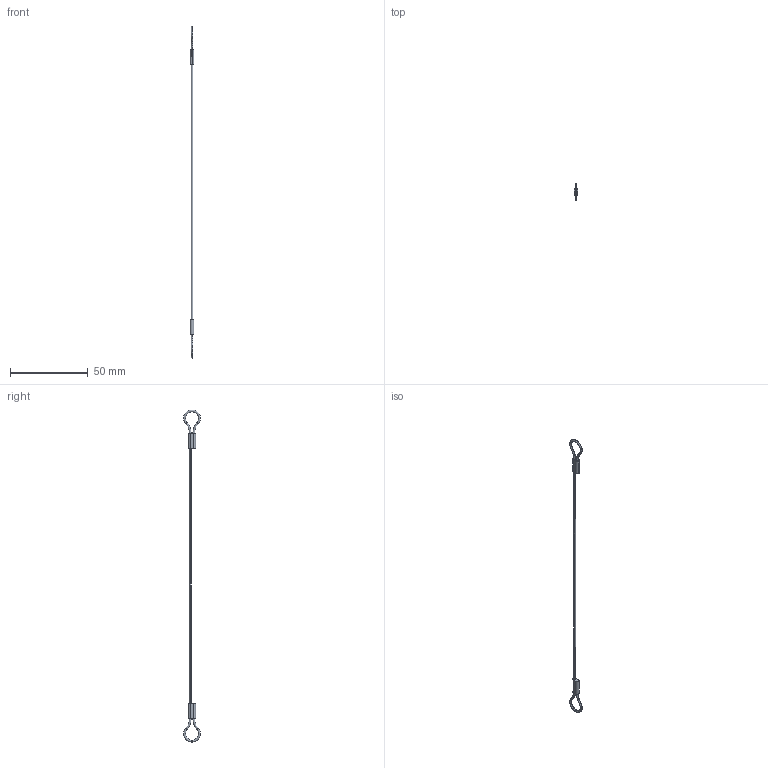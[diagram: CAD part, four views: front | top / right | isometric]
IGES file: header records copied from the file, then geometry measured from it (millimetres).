
Start section: SolidWorks IGES file using analytic representation for surfaces
Global section: file name: C:\Users\ianosborn\Desktop\LA1065_v2\LA1065_v2_20260320_IGES\LA1065.I04-203N1.igs; native system: SolidWorks 2019; preprocessor: SolidWorks 2019; author: IanOsborn; date: 260323.154129; units: millimetre
Bounding box: 2.4 x 10.78 x 213.97 mm (x, y, z)
Surface area: 1158 mm2 (no closed solid volume)
Topology: 0 solids, 0 shells, 30 faces, 336 edges, 336 vertices
Faces by surface type: bspline 22, revolution 8
